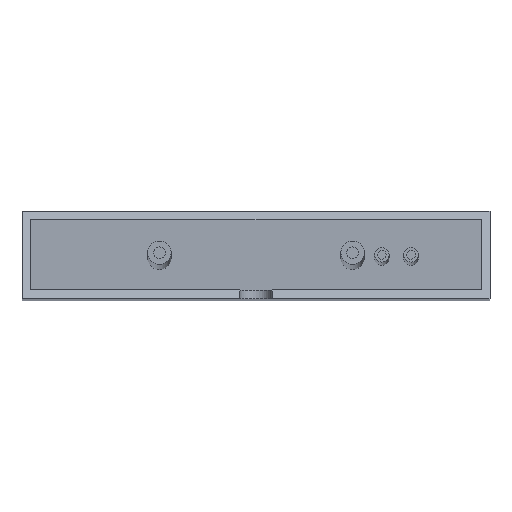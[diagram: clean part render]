
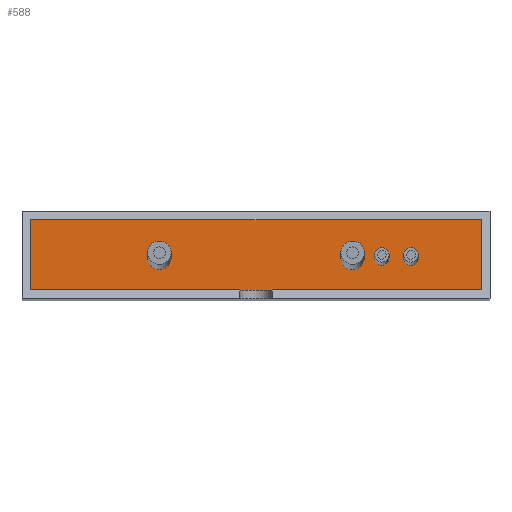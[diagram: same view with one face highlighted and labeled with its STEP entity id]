
A CAD part, top view. The second image highlights one B-rep face of the part: STEP entity #588.
In plain terms, the highlighted planar face has unit normal (0, 0, 1).
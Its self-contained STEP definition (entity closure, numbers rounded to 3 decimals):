
#16=LINE($,#891,#66);
#17=LINE($,#893,#67);
#18=LINE($,#895,#68);
#19=LINE($,#896,#69);
#66=VECTOR($,#740,77.);
#67=VECTOR($,#741,12.);
#68=VECTOR($,#742,77.);
#69=VECTOR($,#743,12.);
#121=PLANE($,#643);
#154=FACE_BOUND($,#219,.T.);
#155=FACE_BOUND($,#220,.T.);
#156=FACE_BOUND($,#221,.T.);
#157=FACE_BOUND($,#222,.T.);
#158=FACE_BOUND($,#223,.T.);
#219=EDGE_LOOP($,(#416));
#220=EDGE_LOOP($,(#417));
#221=EDGE_LOOP($,(#418));
#222=EDGE_LOOP($,(#419));
#223=EDGE_LOOP($,(#420,#421,#422,#423));
#245=CIRCLE($,#616,1.25);
#249=CIRCLE($,#624,1.25);
#253=CIRCLE($,#632,2.);
#257=CIRCLE($,#640,2.);
#265=VERTEX_POINT($,#840);
#269=VERTEX_POINT($,#852);
#273=VERTEX_POINT($,#864);
#277=VERTEX_POINT($,#876);
#282=VERTEX_POINT($,#889);
#283=VERTEX_POINT($,#890);
#284=VERTEX_POINT($,#892);
#285=VERTEX_POINT($,#894);
#317=EDGE_CURVE($,#265,#265,#245,.T.);
#321=EDGE_CURVE($,#269,#269,#249,.T.);
#325=EDGE_CURVE($,#273,#273,#253,.T.);
#329=EDGE_CURVE($,#277,#277,#257,.T.);
#334=EDGE_CURVE($,#282,#283,#16,.T.);
#335=EDGE_CURVE($,#284,#282,#17,.T.);
#336=EDGE_CURVE($,#285,#284,#18,.T.);
#337=EDGE_CURVE($,#283,#285,#19,.T.);
#416=ORIENTED_EDGE($,*,*,#317,.T.);
#417=ORIENTED_EDGE($,*,*,#321,.T.);
#418=ORIENTED_EDGE($,*,*,#325,.T.);
#419=ORIENTED_EDGE($,*,*,#329,.T.);
#420=ORIENTED_EDGE($,*,*,#334,.F.);
#421=ORIENTED_EDGE($,*,*,#335,.F.);
#422=ORIENTED_EDGE($,*,*,#336,.F.);
#423=ORIENTED_EDGE($,*,*,#337,.F.);
#588=ADVANCED_FACE($,(#154,#155,#156,#157,#158),#121,.T.);
#616=AXIS2_PLACEMENT_3D($,#841,#680,#681);
#624=AXIS2_PLACEMENT_3D($,#853,#696,#697);
#632=AXIS2_PLACEMENT_3D($,#865,#712,#713);
#640=AXIS2_PLACEMENT_3D($,#877,#728,#729);
#643=AXIS2_PLACEMENT_3D($,#888,#738,#739);
#680=DIRECTION('center_axis',(0.,0.,
-1.));
#681=DIRECTION('ref_axis',(-1.,0.,0.));
#696=DIRECTION('center_axis',(0.,0.,
-1.));
#697=DIRECTION('ref_axis',(-1.,0.,0.));
#712=DIRECTION('center_axis',(0.,0.,
-1.));
#713=DIRECTION('ref_axis',(-1.,0.,0.));
#728=DIRECTION('center_axis',(0.,0.,
-1.));
#729=DIRECTION('ref_axis',(-1.,0.,0.));
#738=DIRECTION('center_axis',(0.,0.,
1.));
#739=DIRECTION('ref_axis',(1.,0.,0.));
#740=DIRECTION($,(1.,0.,0.));
#741=DIRECTION($,(0.,1.,0.));
#742=DIRECTION($,(-1.,0.,0.));
#743=DIRECTION($,(0.,-1.,0.));
#840=CARTESIAN_POINT('',(29.172,3.909,123.773));
#841=CARTESIAN_POINT('Origin',(27.922,3.909,123.773));
#852=CARTESIAN_POINT('',(34.172,3.909,123.773));
#853=CARTESIAN_POINT('Origin',(32.922,3.909,123.773));
#864=CARTESIAN_POINT('',(-8.078,3.909,123.773));
#865=CARTESIAN_POINT('Origin',(-10.078,3.909,123.773));
#876=CARTESIAN_POINT('',(24.922,3.909,123.773));
#877=CARTESIAN_POINT('Origin',(22.922,3.909,123.773));
#888=CARTESIAN_POINT('Origin',(6.422,4.409,123.773));
#889=CARTESIAN_POINT('',(-32.078,10.409,123.773));
#890=CARTESIAN_POINT('',(44.922,10.409,123.773));
#891=CARTESIAN_POINT($,(26.422,10.409,123.773));
#892=CARTESIAN_POINT('',(-32.078,-1.591,123.773));
#893=CARTESIAN_POINT($,(-32.078,8.159,123.773));
#894=CARTESIAN_POINT('',(44.922,-1.591,123.773));
#895=CARTESIAN_POINT($,(-13.578,-1.591,123.773));
#896=CARTESIAN_POINT($,(44.922,0.659,123.773));
